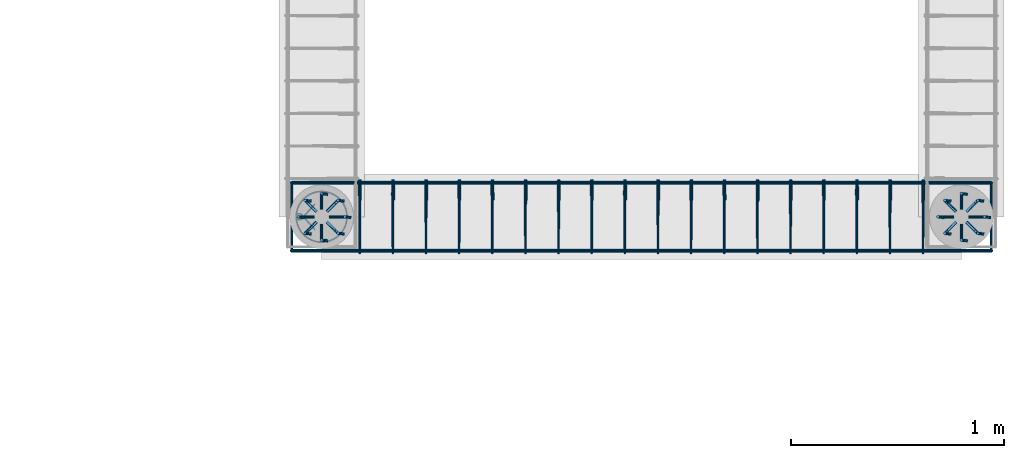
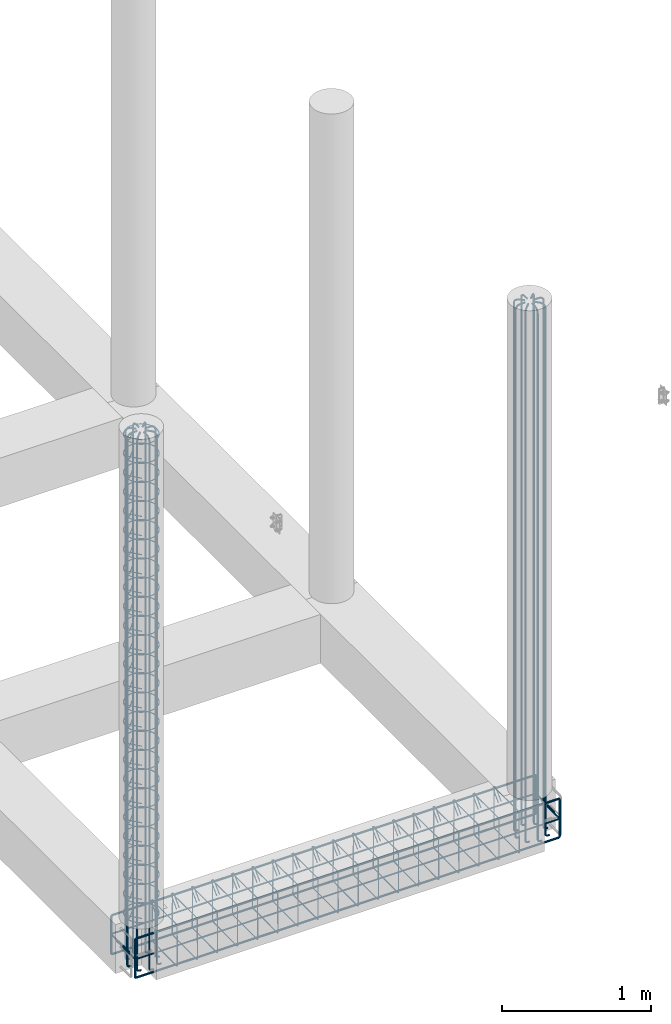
# One storey, part 4 of 20: 9 reinforcing bars.
"""IFC4 building model written with IfcOpenShell, lengths in metres."""

from ifc_helpers import new_model, entity, si_unit, origin_with_axes, place, context, project, spatial, source, transform, mapped, element, save


model = new_model("IFC4")

# Units and contexts
model_context = context("Model", 3, precision=1e-05, world=origin_with_axes())
ifc_project = project(units=[si_unit("LENGTHUNIT", "METRE"), si_unit("AREAUNIT", "SQUARE_METRE"), si_unit("VOLUMEUNIT", "CUBIC_METRE"), si_unit("MASSUNIT", "GRAM", prefix="KILO"), si_unit("TIMEUNIT", "SECOND"), si_unit("PLANEANGLEUNIT", "RADIAN"), si_unit("SOLIDANGLEUNIT", "STERADIAN"), si_unit("THERMODYNAMICTEMPERATUREUNIT", "DEGREE_CELSIUS")], contexts=[model_context])

# Site, building, storey
placement_1 = place(None, origin_with_axes())
site = spatial("IfcSite", under=ifc_project, at=placement_1, Name="Italia", CompositionType="ELEMENT")
building = spatial("IfcBuilding", under=site, at=placement_1, Name="Tettoia", CompositionType="ELEMENT")
storey = spatial("IfcBuildingStorey", under=building, at=placement_1, Name="Storey 0", CompositionType="ELEMENT", Elevation=0.0)

# Reinforcing bars
shared_shape_1 = source(origin_with_axes(), model_context, "Body", "AdvancedSweptSolid", [
    entity("IfcSweptDiskSolid", entity("IfcIndexedPolyCurve", entity("IfcCartesianPointList3D", [[8.21102, 1.99605, -0.375], [8.19714, 1.99787, -0.375], [8.19097, 1.99869, -0.373761], [8.18573, 1.99938, -0.370231], [8.18223, 1.99984, -0.364948], [8.181, 2.0, -0.358717], [8.181, 2.0, 0.5725]]), [entity("IfcLineIndex", [1, 2]), entity("IfcLineIndex", [2, 3]), entity("IfcLineIndex", [3, 4]), entity("IfcLineIndex", [4, 5]), entity("IfcLineIndex", [5, 6]), entity("IfcLineIndex", [6, 7])], False), 0.007),
])
placement_2 = place(placement_1, origin_with_axes())
reinforcing_bar_1_placement = place(placement_2, origin_with_axes())
element("IfcReinforcingBar", 1, at=reinforcing_bar_1_placement, inside=storey, BarLength=0.97063, CrossSectionArea=0.00015394, NominalDiameter=0.014, context=model_context, shape_type="MappedRepresentation", body=[
    mapped(shared_shape_1, transform((0.186057, -0.0770054, 0.0), x_axis=(1.0, 0.0, 0.0), y_axis=(0.0, 1.0, 0.0), z_axis=(0.0, 0.0, 1.0), scale=1.0)),
    mapped(shared_shape_1, transform((0.217983, 6.55651e-05, 0.0), x_axis=(1.0, 0.0, 0.0), y_axis=(0.0, 1.0, 0.0), z_axis=(0.0, 0.0, 1.0), scale=1.0)),
    mapped(shared_shape_1, transform((0.0319242, -0.0770749, 0.0), x_axis=(1.0, 0.0, 0.0), y_axis=(0.0, 1.0, 0.0), z_axis=(0.0, 0.0, 1.0), scale=1.0)),
    mapped(shared_shape_1, transform((0.109, -0.109007, 0.0), x_axis=(1.0, 0.0, 0.0), y_axis=(0.0, 1.0, 0.0), z_axis=(0.0, 0.0, 1.0), scale=1.0)),
    mapped(shared_shape_1, transform((0.0, 0.0, 0.0), x_axis=(1.0, 0.0, 0.0), y_axis=(0.0, 1.0, 0.0), z_axis=(0.0, 0.0, 1.0), scale=1.0)),
    mapped(shared_shape_1, transform((0.0319242, 0.0770745, 0.0), x_axis=(1.0, 0.0, 0.0), y_axis=(0.0, 1.0, 0.0), z_axis=(0.0, 0.0, 1.0), scale=1.0)),
    mapped(shared_shape_1, transform((0.18604, 0.077213, 0.0), x_axis=(1.0, -1.68383e-05, 0.0), y_axis=(1.6883e-05, 1.0, 0.0), z_axis=(0.0, 0.0, 1.0), scale=1.0)),
    mapped(shared_shape_1, transform((0.108983, 0.109066, 0.0), x_axis=(1.0, 0.0, 0.0), y_axis=(0.0, 1.0, 0.0), z_axis=(0.0, 0.0, 1.0), scale=1.0)),
])
shared_shape_2 = source(origin_with_axes(), model_context, "Body", "AdvancedSweptSolid", [
    entity("IfcSweptDiskSolid", entity("IfcIndexedPolyCurve", entity("IfcCartesianPointList3D", [[8.181, 2.0, 0.0], [8.181, 2.0, 3.94], [8.18366, 2.0, 3.95339], [8.19125, 2.0, 3.96475], [8.20261, 2.0, 3.97234], [8.216, 2.0, 3.975], [8.256, 2.0, 3.975]]), [entity("IfcLineIndex", [1, 2]), entity("IfcLineIndex", [2, 3]), entity("IfcLineIndex", [3, 4]), entity("IfcLineIndex", [4, 5]), entity("IfcLineIndex", [5, 6]), entity("IfcLineIndex", [6, 7])], False), 0.007),
])
reinforcing_bar_2_placement = place(placement_2, origin_with_axes())
element("IfcReinforcingBar", 2, at=reinforcing_bar_2_placement, inside=storey, BarLength=4.03463, CrossSectionArea=0.00015394, NominalDiameter=0.014, context=model_context, shape_type="MappedRepresentation", body=[
    mapped(shared_shape_2, transform((15.5661, -2.44771, 0.0), x_axis=(-0.707106, 0.707108, 0.0), y_axis=(-0.707108, -0.707106, 0.0), z_axis=(0.0, 0.0, 1.0), scale=1.0)),
    mapped(shared_shape_2, transform((16.58, 4.0, 0.0), x_axis=(-1.0, 0.0, 0.0), y_axis=(0.0, -1.0, 0.0), z_axis=(0.0, 0.0, 1.0), scale=1.0)),
    mapped(shared_shape_2, transform((3.84231, -5.27613, 0.0), x_axis=(0.707106, 0.707108, 0.0), y_axis=(-0.707108, 0.707106, 0.0), z_axis=(0.0, 0.0, 1.0), scale=1.0)),
    mapped(shared_shape_2, transform((10.29, -6.29, 0.0), x_axis=(0.0, 1.0, 0.0), y_axis=(-1.0, 0.0, 0.0), z_axis=(0.0, 0.0, 1.0), scale=1.0)),
    mapped(shared_shape_2, transform((1.01384, 6.44765, 0.0), x_axis=(0.707112, -0.707102, 0.0), y_axis=(0.707102, 0.707112, 0.0), z_axis=(0.0, 0.0, 1.0), scale=1.0)),
    mapped(shared_shape_2, transform((0.0, 0.0, 0.0), x_axis=(1.0, 0.0, 0.0), y_axis=(0.0, 1.0, 0.0), z_axis=(0.0, 0.0, 1.0), scale=1.0)),
    mapped(shared_shape_2, transform((12.7377, 9.27614, 0.0), x_axis=(-0.707105, -0.707108, 0.0), y_axis=(0.707108, -0.707105, 0.0), z_axis=(0.0, 0.0, 1.0), scale=1.0)),
    mapped(shared_shape_2, transform((6.29, 10.29, 0.0), x_axis=(0.0, -1.0, 0.0), y_axis=(1.0, 0.0, 0.0), z_axis=(0.0, 0.0, 1.0), scale=1.0)),
])
shared_shape_3 = source(origin_with_axes(), model_context, "Body", "AdvancedSweptSolid", [
    entity("IfcSweptDiskSolid", entity("IfcIndexedPolyCurve", entity("IfcCartesianPointList3D", [[8.25909, 1.93856, 0.029], [8.19569, 2.01046, 0.029], [8.18882, 2.01383, 0.029], [8.18197, 2.01426, 0.029], [8.17811, 2.01374, 0.029], [8.17473, 2.01178, 0.029], [8.17237, 2.00867, 0.029], [8.17137, 2.0049, 0.029], [8.1711, 2.00071, 0.029], [8.17111, 1.99929, 0.029], [8.17246, 1.98218, 0.029], [8.17271, 1.98063, 0.029], [8.1767, 1.96401, 0.029], [8.17718, 1.96252, 0.029], [8.18372, 1.94673, 0.029], [8.18443, 1.94533, 0.029], [8.19336, 1.93076, 0.029], [8.19429, 1.92949, 0.029], [8.20538, 1.91649, 0.029], [8.20649, 1.91538, 0.029], [8.21949, 1.90429, 0.029], [8.22076, 1.90336, 0.029], [8.23533, 1.89443, 0.029], [8.23673, 1.89372, 0.029], [8.25252, 1.88718, 0.029], [8.25401, 1.8867, 0.029], [8.27063, 1.88271, 0.029], [8.27218, 1.88246, 0.029], [8.28922, 1.88112, 0.029], [8.29078, 1.88112, 0.029], [8.30782, 1.88246, 0.029], [8.30937, 1.88271, 0.029], [8.32599, 1.8867, 0.029], [8.32748, 1.88718, 0.029], [8.34327, 1.89372, 0.029], [8.34467, 1.89443, 0.029], [8.35924, 1.90336, 0.029], [8.36051, 1.90429, 0.029], [8.37351, 1.91538, 0.029], [8.37462, 1.91649, 0.029], [8.38571, 1.92949, 0.029], [8.38664, 1.93076, 0.029], [8.39557, 1.94533, 0.029], [8.39628, 1.94673, 0.029], [8.40282, 1.96252, 0.029], [8.4033, 1.96401, 0.029], [8.40729, 1.98063, 0.029], [8.40754, 1.98218, 0.029], [8.40888, 1.99922, 0.029], [8.40888, 2.00078, 0.029], [8.40754, 2.01782, 0.029], [8.40729, 2.01937, 0.029], [8.4033, 2.03599, 0.029], [8.40282, 2.03748, 0.029], [8.39628, 2.05327, 0.029], [8.39557, 2.05467, 0.029], [8.38664, 2.06924, 0.029], [8.38571, 2.07051, 0.029], [8.37462, 2.08351, 0.029], [8.37351, 2.08462, 0.029], [8.36051, 2.09571, 0.029], [8.35924, 2.09664, 0.029], [8.34467, 2.10557, 0.029], [8.34327, 2.10628, 0.029], [8.32748, 2.11282, 0.029], [8.32599, 2.1133, 0.029], [8.30937, 2.11729, 0.029], [8.30782, 2.11754, 0.029], [8.29078, 2.11888, 0.029], [8.28922, 2.11888, 0.029], [8.27218, 2.11754, 0.029], [8.27063, 2.11729, 0.029], [8.25401, 2.1133, 0.029], [8.25252, 2.11282, 0.029], [8.23673, 2.10628, 0.029], [8.23533, 2.10557, 0.029], [8.22076, 2.09664, 0.029], [8.21949, 2.09571, 0.029], [8.20649, 2.08462, 0.029], [8.20538, 2.08351, 0.029], [8.19429, 2.07051, 0.029], [8.19336, 2.06924, 0.029], [8.18443, 2.05467, 0.029], [8.18372, 2.05327, 0.029], [8.17718, 2.03748, 0.029], [8.1767, 2.03599, 0.029], [8.17271, 2.01937, 0.029], [8.17246, 2.01782, 0.029], [8.17111, 2.00071, 0.029], [8.1711, 1.99929, 0.029], [8.17137, 1.9951, 0.029], [8.17237, 1.99133, 0.029], [8.17473, 1.98822, 0.029], [8.17811, 1.98626, 0.029], [8.18197, 1.98574, 0.029], [8.18882, 1.98617, 0.029], [8.19569, 1.98954, 0.029], [8.25909, 2.06144, 0.029]]), [entity("IfcLineIndex", [1, 2]), entity("IfcLineIndex", [2, 3]), entity("IfcLineIndex", [3, 4]), entity("IfcLineIndex", [4, 5]), entity("IfcLineIndex", [5, 6]), entity("IfcLineIndex", [6, 7]), entity("IfcLineIndex", [7, 8]), entity("IfcLineIndex", [8, 9]), entity("IfcLineIndex", [9, 10]), entity("IfcLineIndex", [10, 11]), entity("IfcLineIndex", [11, 12]), entity("IfcLineIndex", [12, 13]), entity("IfcLineIndex", [13, 14]), entity("IfcLineIndex", [14, 15]), entity("IfcLineIndex", [15, 16]), entity("IfcLineIndex", [16, 17]), entity("IfcLineIndex", [17, 18]), entity("IfcLineIndex", [18, 19]), entity("IfcLineIndex", [19, 20]), entity("IfcLineIndex", [20, 21]), entity("IfcLineIndex", [21, 22]), entity("IfcLineIndex", [22, 23]), entity("IfcLineIndex", [23, 24]), entity("IfcLineIndex", [24, 25]), entity("IfcLineIndex", [25, 26]), entity("IfcLineIndex", [26, 27]), entity("IfcLineIndex", [27, 28]), entity("IfcLineIndex", [28, 29]), entity("IfcLineIndex", [29, 30]), entity("IfcLineIndex", [30, 31]), entity("IfcLineIndex", [31, 32]), entity("IfcLineIndex", [32, 33]), entity("IfcLineIndex", [33, 34]), entity("IfcLineIndex", [34, 35]), entity("IfcLineIndex", [35, 36]), entity("IfcLineIndex", [36, 37]), entity("IfcLineIndex", [37, 38]), entity("IfcLineIndex", [38, 39]), entity("IfcLineIndex", [39, 40]), entity("IfcLineIndex", [40, 41]), entity("IfcLineIndex", [41, 42]), entity("IfcLineIndex", [42, 43]), entity("IfcLineIndex", [43, 44]), entity("IfcLineIndex", [44, 45]), entity("IfcLineIndex", [45, 46]), entity("IfcLineIndex", [46, 47]), entity("IfcLineIndex", [47, 48]), entity("IfcLineIndex", [48, 49]), entity("IfcLineIndex", [49, 50]), entity("IfcLineIndex", [50, 51]), entity("IfcLineIndex", [51, 52]), entity("IfcLineIndex", [52, 53]), entity("IfcLineIndex", [53, 54]), entity("IfcLineIndex", [54, 55]), entity("IfcLineIndex", [55, 56]), entity("IfcLineIndex", [56, 57]), entity("IfcLineIndex", [57, 58]), entity("IfcLineIndex", [58, 59]), entity("IfcLineIndex", [59, 60]), entity("IfcLineIndex", [60, 61]), entity("IfcLineIndex", [61, 62]), entity("IfcLineIndex", [62, 63]), entity("IfcLineIndex", [63, 64]), entity("IfcLineIndex", [64, 65]), entity("IfcLineIndex", [65, 66]), entity("IfcLineIndex", [66, 67]), entity("IfcLineIndex", [67, 68]), entity("IfcLineIndex", [68, 69]), entity("IfcLineIndex", [69, 70]), entity("IfcLineIndex", [70, 71]), entity("IfcLineIndex", [71, 72]), entity("IfcLineIndex", [72, 73]), entity("IfcLineIndex", [73, 74]), entity("IfcLineIndex", [74, 75]), entity("IfcLineIndex", [75, 76]), entity("IfcLineIndex", [76, 77]), entity("IfcLineIndex", [77, 78]), entity("IfcLineIndex", [78, 79]), entity("IfcLineIndex", [79, 80]), entity("IfcLineIndex", [80, 81]), entity("IfcLineIndex", [81, 82]), entity("IfcLineIndex", [82, 83]), entity("IfcLineIndex", [83, 84]), entity("IfcLineIndex", [84, 85]), entity("IfcLineIndex", [85, 86]), entity("IfcLineIndex", [86, 87]), entity("IfcLineIndex", [87, 88]), entity("IfcLineIndex", [88, 89]), entity("IfcLineIndex", [89, 90]), entity("IfcLineIndex", [90, 91]), entity("IfcLineIndex", [91, 92]), entity("IfcLineIndex", [92, 93]), entity("IfcLineIndex", [93, 94]), entity("IfcLineIndex", [94, 95]), entity("IfcLineIndex", [95, 96]), entity("IfcLineIndex", [96, 97]), entity("IfcLineIndex", [97, 98])], False), 0.004),
])
reinforcing_bar_3_placement = place(placement_2, origin_with_axes())
element("IfcReinforcingBar", 3, at=reinforcing_bar_3_placement, inside=storey, BarLength=1.00815, CrossSectionArea=5.0265e-05, NominalDiameter=0.008, context=model_context, shape_type="MappedRepresentation", body=[
    mapped(shared_shape_3, transform((0.0, 0.0, 1.8768), x_axis=(1.0, 0.0, 0.0), y_axis=(0.0, 1.0, 0.0), z_axis=(0.0, 0.0, 1.0), scale=1.0)),
    mapped(shared_shape_3, transform((0.0, 0.0, 1.7204), x_axis=(1.0, 0.0, 0.0), y_axis=(0.0, 1.0, 0.0), z_axis=(0.0, 0.0, 1.0), scale=1.0)),
    mapped(shared_shape_3, transform((0.0, 0.0, 1.0948), x_axis=(1.0, 0.0, 0.0), y_axis=(0.0, 1.0, 0.0), z_axis=(0.0, 0.0, 1.0), scale=1.0)),
    mapped(shared_shape_3, transform((0.0, 0.0, 1.4076), x_axis=(1.0, 0.0, 0.0), y_axis=(0.0, 1.0, 0.0), z_axis=(0.0, 0.0, 1.0), scale=1.0)),
    mapped(shared_shape_3, transform((0.0, 0.0, 1.2512), x_axis=(1.0, 0.0, 0.0), y_axis=(0.0, 1.0, 0.0), z_axis=(0.0, 0.0, 1.0), scale=1.0)),
    mapped(shared_shape_3, transform((0.0, 0.0, 1.564), x_axis=(1.0, 0.0, 0.0), y_axis=(0.0, 1.0, 0.0), z_axis=(0.0, 0.0, 1.0), scale=1.0)),
    mapped(shared_shape_3, transform((0.0, 0.0, 0.9384), x_axis=(1.0, 0.0, 0.0), y_axis=(0.0, 1.0, 0.0), z_axis=(0.0, 0.0, 1.0), scale=1.0)),
    mapped(shared_shape_3, transform((0.0, 0.0, 0.782), x_axis=(1.0, 0.0, 0.0), y_axis=(0.0, 1.0, 0.0), z_axis=(0.0, 0.0, 1.0), scale=1.0)),
    mapped(shared_shape_3, transform((0.0, 0.0, 0.1564), x_axis=(1.0, 0.0, 0.0), y_axis=(0.0, 1.0, 0.0), z_axis=(0.0, 0.0, 1.0), scale=1.0)),
    mapped(shared_shape_3, transform((0.0, 0.0, 0.4692), x_axis=(1.0, 0.0, 0.0), y_axis=(0.0, 1.0, 0.0), z_axis=(0.0, 0.0, 1.0), scale=1.0)),
    mapped(shared_shape_3, transform((0.0, 0.0, 0.3128), x_axis=(1.0, 0.0, 0.0), y_axis=(0.0, 1.0, 0.0), z_axis=(0.0, 0.0, 1.0), scale=1.0)),
    mapped(shared_shape_3, transform((0.0, 0.0, 0.6256), x_axis=(1.0, 0.0, 0.0), y_axis=(0.0, 1.0, 0.0), z_axis=(0.0, 0.0, 1.0), scale=1.0)),
    mapped(shared_shape_3, transform((0.0, 0.0, 0.0), x_axis=(1.0, 0.0, 0.0), y_axis=(0.0, 1.0, 0.0), z_axis=(0.0, 0.0, 1.0), scale=1.0)),
    mapped(shared_shape_3, transform((0.0, 0.0, 3.91), x_axis=(1.0, 0.0, 0.0), y_axis=(0.0, 1.0, 0.0), z_axis=(0.0, 0.0, 1.0), scale=1.0)),
    mapped(shared_shape_3, transform((0.0, 0.0, 3.2844), x_axis=(1.0, 0.0, 0.0), y_axis=(0.0, 1.0, 0.0), z_axis=(0.0, 0.0, 1.0), scale=1.0)),
    mapped(shared_shape_3, transform((0.0, 0.0, 3.5972), x_axis=(1.0, 0.0, 0.0), y_axis=(0.0, 1.0, 0.0), z_axis=(0.0, 0.0, 1.0), scale=1.0)),
    mapped(shared_shape_3, transform((0.0, 0.0, 3.4408), x_axis=(1.0, 0.0, 0.0), y_axis=(0.0, 1.0, 0.0), z_axis=(0.0, 0.0, 1.0), scale=1.0)),
    mapped(shared_shape_3, transform((0.0, 0.0, 3.7536), x_axis=(1.0, 0.0, 0.0), y_axis=(0.0, 1.0, 0.0), z_axis=(0.0, 0.0, 1.0), scale=1.0)),
    mapped(shared_shape_3, transform((0.0, 0.0, 3.128), x_axis=(1.0, 0.0, 0.0), y_axis=(0.0, 1.0, 0.0), z_axis=(0.0, 0.0, 1.0), scale=1.0)),
    mapped(shared_shape_3, transform((0.0, 0.0, 2.9716), x_axis=(1.0, 0.0, 0.0), y_axis=(0.0, 1.0, 0.0), z_axis=(0.0, 0.0, 1.0), scale=1.0)),
    mapped(shared_shape_3, transform((0.0, 0.0, 2.346), x_axis=(1.0, 0.0, 0.0), y_axis=(0.0, 1.0, 0.0), z_axis=(0.0, 0.0, 1.0), scale=1.0)),
    mapped(shared_shape_3, transform((0.0, 0.0, 2.6588), x_axis=(1.0, 0.0, 0.0), y_axis=(0.0, 1.0, 0.0), z_axis=(0.0, 0.0, 1.0), scale=1.0)),
    mapped(shared_shape_3, transform((0.0, 0.0, 2.5024), x_axis=(1.0, 0.0, 0.0), y_axis=(0.0, 1.0, 0.0), z_axis=(0.0, 0.0, 1.0), scale=1.0)),
    mapped(shared_shape_3, transform((0.0, 0.0, 2.8152), x_axis=(1.0, 0.0, 0.0), y_axis=(0.0, 1.0, 0.0), z_axis=(0.0, 0.0, 1.0), scale=1.0)),
    mapped(shared_shape_3, transform((0.0, 0.0, 2.1896), x_axis=(1.0, 0.0, 0.0), y_axis=(0.0, 1.0, 0.0), z_axis=(0.0, 0.0, 1.0), scale=1.0)),
    mapped(shared_shape_3, transform((0.0, 0.0, 2.0332), x_axis=(1.0, 0.0, 0.0), y_axis=(0.0, 1.0, 0.0), z_axis=(0.0, 0.0, 1.0), scale=1.0)),
])
shared_shape_4 = source(origin_with_axes(), model_context, "Body", "AdvancedSweptSolid", [
    entity("IfcSweptDiskSolid", entity("IfcIndexedPolyCurve", entity("IfcCartesianPointList3D", [[11.211, 1.99605, -0.375], [11.1971, 1.99787, -0.375], [11.191, 1.99869, -0.373761], [11.1857, 1.99938, -0.370231], [11.1822, 1.99984, -0.364949], [11.181, 2.0, -0.358718], [11.181, 2.0, 0.5725]]), [entity("IfcLineIndex", [1, 2]), entity("IfcLineIndex", [2, 3]), entity("IfcLineIndex", [3, 4]), entity("IfcLineIndex", [4, 5]), entity("IfcLineIndex", [5, 6]), entity("IfcLineIndex", [6, 7])], False), 0.007),
])
reinforcing_bar_4_placement = place(placement_2, origin_with_axes())
element("IfcReinforcingBar", 4, at=reinforcing_bar_4_placement, inside=storey, BarLength=0.97063, CrossSectionArea=0.00015394, NominalDiameter=0.014, context=model_context, shape_type="MappedRepresentation", body=[
    mapped(shared_shape_4, transform((0.186073, -0.0770695, 0.0), x_axis=(1.0, 0.0, 0.0), y_axis=(0.0, 1.0, 0.0), z_axis=(0.0, 0.0, 1.0), scale=1.0)),
    mapped(shared_shape_4, transform((0.0319414, -0.0771643, 0.0), x_axis=(1.0, 0.0, 0.0), y_axis=(0.0, 1.0, 0.0), z_axis=(0.0, 0.0, 1.0), scale=1.0)),
    mapped(shared_shape_4, transform((0.0, 0.0, 0.0), x_axis=(1.0, 0.0, 0.0), y_axis=(0.0, 1.0, 0.0), z_axis=(0.0, 0.0, 1.0), scale=1.0)),
    mapped(shared_shape_4, transform((0.186074, 0.0770746, 0.0), x_axis=(1.0, 0.0, 0.0), y_axis=(0.0, 1.0, 0.0), z_axis=(0.0, 0.0, 1.0), scale=1.0)),
    mapped(shared_shape_4, transform((0.217999, 0.0, 0.0), x_axis=(1.0, 0.0, 0.0), y_axis=(0.0, 1.0, 0.0), z_axis=(0.0, 0.0, 1.0), scale=1.0)),
    mapped(shared_shape_4, transform((0.109015, 0.10891, 0.0), x_axis=(1.0, 0.0, 0.0), y_axis=(0.0, 1.0, 0.0), z_axis=(0.0, 0.0, 1.0), scale=1.0)),
    mapped(shared_shape_4, transform((0.0319414, 0.0769851, 0.0), x_axis=(1.0, 0.0, 0.0), y_axis=(0.0, 1.0, 0.0), z_axis=(0.0, 0.0, 1.0), scale=1.0)),
    mapped(shared_shape_4, transform((0.109015, -0.10909, 0.0), x_axis=(1.0, 0.0, 0.0), y_axis=(0.0, 1.0, 0.0), z_axis=(0.0, 0.0, 1.0), scale=1.0)),
])
shared_shape_5 = source(origin_with_axes(), model_context, "Body", "AdvancedSweptSolid", [
    entity("IfcSweptDiskSolid", entity("IfcIndexedPolyCurve", entity("IfcCartesianPointList3D", [[11.181, 2.0, 0.0], [11.181, 2.0, 3.94], [11.1837, 2.0, 3.95339], [11.1913, 2.0, 3.96475], [11.2026, 2.0, 3.97234], [11.216, 2.0, 3.975], [11.256, 2.0, 3.975]]), [entity("IfcLineIndex", [1, 2]), entity("IfcLineIndex", [2, 3]), entity("IfcLineIndex", [3, 4]), entity("IfcLineIndex", [4, 5]), entity("IfcLineIndex", [5, 6]), entity("IfcLineIndex", [6, 7])], False), 0.007),
])
reinforcing_bar_5_placement = place(placement_2, origin_with_axes())
element("IfcReinforcingBar", 5, at=reinforcing_bar_5_placement, inside=storey, BarLength=4.03463, CrossSectionArea=0.00015394, NominalDiameter=0.014, context=model_context, shape_type="MappedRepresentation", body=[
    mapped(shared_shape_5, transform((20.6874, -4.56903, 0.0), x_axis=(-0.707106, 0.707108, 0.0), y_axis=(-0.707108, -0.707106, 0.0), z_axis=(0.0, 0.0, 1.0), scale=1.0)),
    mapped(shared_shape_5, transform((22.58, 4.0, 0.0), x_axis=(-1.0, 0.0, 0.0), y_axis=(0.0, -1.0, 0.0), z_axis=(0.0, 0.0, 1.0), scale=1.0)),
    mapped(shared_shape_5, transform((4.72099, -7.39746, 0.0), x_axis=(0.707106, 0.707108, 0.0), y_axis=(-0.707108, 0.707106, 0.0), z_axis=(0.0, 0.0, 1.0), scale=1.0)),
    mapped(shared_shape_5, transform((13.29, -9.29, 0.0), x_axis=(0.0, 1.0, 0.0), y_axis=(-1.0, 0.0, 0.0), z_axis=(0.0, 0.0, 1.0), scale=1.0)),
    mapped(shared_shape_5, transform((1.89251, 8.56896, 0.0), x_axis=(0.707112, -0.707102, 0.0), y_axis=(0.707102, 0.707112, 0.0), z_axis=(0.0, 0.0, 1.0), scale=1.0)),
    mapped(shared_shape_5, transform((0.0, 0.0, 0.0), x_axis=(1.0, 0.0, 0.0), y_axis=(0.0, 1.0, 0.0), z_axis=(0.0, 0.0, 1.0), scale=1.0)),
    mapped(shared_shape_5, transform((17.859, 11.3975, 0.0), x_axis=(-0.707105, -0.707108, 0.0), y_axis=(0.707108, -0.707105, 0.0), z_axis=(0.0, 0.0, 1.0), scale=1.0)),
    mapped(shared_shape_5, transform((9.29, 13.29, 0.0), x_axis=(0.0, -1.0, 0.0), y_axis=(1.0, 0.0, 0.0), z_axis=(0.0, 0.0, 1.0), scale=1.0)),
])
shared_shape_6 = source(origin_with_axes(), model_context, "Body", "AdvancedSweptSolid", [
    entity("IfcSweptDiskSolid", entity("IfcIndexedPolyCurve", entity("IfcCartesianPointList3D", [[8.465, 2.10029, -0.120711], [8.46556, 2.16807, -0.0529289], [8.4656, 2.171, -0.0458579], [8.46564, 2.171, -0.039], [8.46566, 2.17024, -0.0351732], [8.46568, 2.16807, -0.0319289], [8.46571, 2.16483, -0.0297612], [8.46573, 2.161, -0.029], [8.4676, 1.839, -0.029], [8.46762, 1.83517, -0.0297612], [8.46764, 1.83193, -0.0319289], [8.46766, 1.82976, -0.0351732], [8.46769, 1.829, -0.039], [8.46955, 1.829, -0.361], [8.46958, 1.82976, -0.364827], [8.4696, 1.83193, -0.368071], [8.46962, 1.83517, -0.370239], [8.46965, 1.839, -0.371], [8.47151, 2.161, -0.371], [8.47153, 2.16483, -0.370239], [8.47156, 2.16807, -0.368071], [8.47158, 2.17024, -0.364827], [8.4716, 2.171, -0.361], [8.47347, 2.171, -0.039], [8.47349, 2.17024, -0.0351732], [8.47351, 2.16807, -0.0319289], [8.47354, 2.16483, -0.0297612], [8.47356, 2.161, -0.029], [8.4736, 2.15414, -0.029], [8.47364, 2.14707, -0.0319289], [8.4742, 2.07929, -0.0997114]]), [entity("IfcLineIndex", [1, 2]), entity("IfcLineIndex", [2, 3]), entity("IfcLineIndex", [3, 4]), entity("IfcLineIndex", [4, 5]), entity("IfcLineIndex", [5, 6]), entity("IfcLineIndex", [6, 7]), entity("IfcLineIndex", [7, 8]), entity("IfcLineIndex", [8, 9]), entity("IfcLineIndex", [9, 10]), entity("IfcLineIndex", [10, 11]), entity("IfcLineIndex", [11, 12]), entity("IfcLineIndex", [12, 13]), entity("IfcLineIndex", [13, 14]), entity("IfcLineIndex", [14, 15]), entity("IfcLineIndex", [15, 16]), entity("IfcLineIndex", [16, 17]), entity("IfcLineIndex", [17, 18]), entity("IfcLineIndex", [18, 19]), entity("IfcLineIndex", [19, 20]), entity("IfcLineIndex", [20, 21]), entity("IfcLineIndex", [21, 22]), entity("IfcLineIndex", [22, 23]), entity("IfcLineIndex", [23, 24]), entity("IfcLineIndex", [24, 25]), entity("IfcLineIndex", [25, 26]), entity("IfcLineIndex", [26, 27]), entity("IfcLineIndex", [27, 28]), entity("IfcLineIndex", [28, 29]), entity("IfcLineIndex", [29, 30]), entity("IfcLineIndex", [30, 31])], False), 0.004),
])
reinforcing_bar_6_placement = place(placement_2, origin_with_axes())
element("IfcReinforcingBar", 6, at=reinforcing_bar_6_placement, inside=storey, BarLength=1.5868, CrossSectionArea=5.0265e-05, NominalDiameter=0.008, context=model_context, shape_type="MappedRepresentation", body=[
    mapped(shared_shape_6, transform((1.24329, 0.0, 0.0), x_axis=(1.0, 0.0, 0.0), y_axis=(0.0, 1.0, 0.0), z_axis=(0.0, 0.0, 1.0), scale=1.0)),
    mapped(shared_shape_6, transform((1.08788, 0.0, 0.0), x_axis=(1.0, 0.0, 0.0), y_axis=(0.0, 1.0, 0.0), z_axis=(0.0, 0.0, 1.0), scale=1.0)),
    mapped(shared_shape_6, transform((0.932469, 0.0, 0.0), x_axis=(1.0, 0.0, 0.0), y_axis=(0.0, 1.0, 0.0), z_axis=(0.0, 0.0, 1.0), scale=1.0)),
    mapped(shared_shape_6, transform((0.777058, 0.0, 0.0), x_axis=(1.0, 0.0, 0.0), y_axis=(0.0, 1.0, 0.0), z_axis=(0.0, 0.0, 1.0), scale=1.0)),
    mapped(shared_shape_6, transform((0.621646, 0.0, 0.0), x_axis=(1.0, 0.0, 0.0), y_axis=(0.0, 1.0, 0.0), z_axis=(0.0, 0.0, 1.0), scale=1.0)),
    mapped(shared_shape_6, transform((0.466234, 0.0, 0.0), x_axis=(1.0, 0.0, 0.0), y_axis=(0.0, 1.0, 0.0), z_axis=(0.0, 0.0, 1.0), scale=1.0)),
    mapped(shared_shape_6, transform((0.310822, 0.0, 0.0), x_axis=(1.0, 0.0, 0.0), y_axis=(0.0, 1.0, 0.0), z_axis=(0.0, 0.0, 1.0), scale=1.0)),
    mapped(shared_shape_6, transform((0.155411, 0.0, 0.0), x_axis=(1.0, 0.0, 0.0), y_axis=(0.0, 1.0, 0.0), z_axis=(0.0, 0.0, 1.0), scale=1.0)),
    mapped(shared_shape_6, transform((0.0, 0.0, 0.0), x_axis=(1.0, 0.0, 0.0), y_axis=(0.0, 1.0, 0.0), z_axis=(0.0, 0.0, 1.0), scale=1.0)),
    mapped(shared_shape_6, transform((2.642, 0.0, 0.0), x_axis=(1.0, 0.0, 0.0), y_axis=(0.0, 1.0, 0.0), z_axis=(0.0, 0.0, 1.0), scale=1.0)),
    mapped(shared_shape_6, transform((2.48659, 0.0, 0.0), x_axis=(1.0, 0.0, 0.0), y_axis=(0.0, 1.0, 0.0), z_axis=(0.0, 0.0, 1.0), scale=1.0)),
    mapped(shared_shape_6, transform((2.33118, 0.0, 0.0), x_axis=(1.0, 0.0, 0.0), y_axis=(0.0, 1.0, 0.0), z_axis=(0.0, 0.0, 1.0), scale=1.0)),
    mapped(shared_shape_6, transform((2.17576, 0.0, 0.0), x_axis=(1.0, 0.0, 0.0), y_axis=(0.0, 1.0, 0.0), z_axis=(0.0, 0.0, 1.0), scale=1.0)),
    mapped(shared_shape_6, transform((2.02035, 0.0, 0.0), x_axis=(1.0, 0.0, 0.0), y_axis=(0.0, 1.0, 0.0), z_axis=(0.0, 0.0, 1.0), scale=1.0)),
    mapped(shared_shape_6, transform((1.86494, 0.0, 0.0), x_axis=(1.0, 0.0, 0.0), y_axis=(0.0, 1.0, 0.0), z_axis=(0.0, 0.0, 1.0), scale=1.0)),
    mapped(shared_shape_6, transform((1.70953, 0.0, 0.0), x_axis=(1.0, 0.0, 0.0), y_axis=(0.0, 1.0, 0.0), z_axis=(0.0, 0.0, 1.0), scale=1.0)),
    mapped(shared_shape_6, transform((1.55412, 0.0, 0.0), x_axis=(1.0, 0.0, 0.0), y_axis=(0.0, 1.0, 0.0), z_axis=(0.0, 0.0, 1.0), scale=1.0)),
    mapped(shared_shape_6, transform((1.39871, 0.0, 0.0), x_axis=(1.0, 0.0, 0.0), y_axis=(0.0, 1.0, 0.0), z_axis=(0.0, 0.0, 1.0), scale=1.0)),
])
shared_shape_7 = source(origin_with_axes(), model_context, "Body", "AdvancedSweptSolid", [
    entity("IfcSweptDiskSolid", entity("IfcIndexedPolyCurve", entity("IfcCartesianPointList3D", [[8.15, 1.911, -0.194], [8.15, 2.151, -0.194], [8.15076, 2.15483, -0.194], [8.15293, 2.15807, -0.194], [8.15617, 2.16024, -0.194], [8.16, 2.161, -0.194], [11.42, 2.161, -0.194], [11.4238, 2.16024, -0.194], [11.4271, 2.15807, -0.194], [11.4292, 2.15483, -0.194], [11.43, 2.151, -0.194], [11.43, 1.911, -0.194]]), [entity("IfcLineIndex", [1, 2]), entity("IfcLineIndex", [2, 3]), entity("IfcLineIndex", [3, 4]), entity("IfcLineIndex", [4, 5]), entity("IfcLineIndex", [5, 6]), entity("IfcLineIndex", [6, 7]), entity("IfcLineIndex", [7, 8]), entity("IfcLineIndex", [8, 9]), entity("IfcLineIndex", [9, 10]), entity("IfcLineIndex", [10, 11]), entity("IfcLineIndex", [11, 12])], False), 0.006),
])
reinforcing_bar_7_placement = place(placement_2, origin_with_axes())
element("IfcReinforcingBar", 7, at=reinforcing_bar_7_placement, inside=storey, BarLength=3.77121, CrossSectionArea=0.0001131, NominalDiameter=0.012, context=model_context, shape_type="MappedRepresentation", body=[
    mapped(shared_shape_7, transform((0.0, 4.0, -0.4), x_axis=(1.0, 0.0, 0.0), y_axis=(0.0, -1.0, 0.0), z_axis=(0.0, 0.0, -1.0), scale=1.0)),
    mapped(shared_shape_7, transform((0.0, 0.0, 0.0), x_axis=(1.0, 0.0, 0.0), y_axis=(0.0, 1.0, 0.0), z_axis=(0.0, 0.0, 1.0), scale=1.0)),
])
shared_shape_8 = source(origin_with_axes(), model_context, "Body", "AdvancedSweptSolid", [
    entity("IfcSweptDiskSolid", entity("IfcIndexedPolyCurve", entity("IfcCartesianPointList3D", [[9.20727, 1.841, -0.359], [9.79, 1.841, -0.359], [11.29, 1.841, -0.359], [11.42, 1.841, -0.359], [11.4238, 1.841, -0.358239], [11.4271, 1.841, -0.356071], [11.4292, 1.841, -0.352827], [11.43, 1.841, -0.349], [11.43, 1.841, -0.109]]), [entity("IfcLineIndex", [1, 2]), entity("IfcLineIndex", [2, 3]), entity("IfcLineIndex", [3, 4]), entity("IfcLineIndex", [4, 5]), entity("IfcLineIndex", [5, 6]), entity("IfcLineIndex", [6, 7]), entity("IfcLineIndex", [7, 8]), entity("IfcLineIndex", [8, 9])], False), 0.008),
])
reinforcing_bar_8_placement = place(placement_2, origin_with_axes())
element("IfcReinforcingBar", 8, at=reinforcing_bar_8_placement, inside=storey, BarLength=2.46833, CrossSectionArea=0.00020106, NominalDiameter=0.016, context=model_context, shape_type="MappedRepresentation", body=[
    mapped(shared_shape_8, transform((0.0, 0.318, 0.0), x_axis=(1.0, 0.0, 0.0), y_axis=(0.0, 1.0, 0.0), z_axis=(0.0, 0.0, 1.0), scale=1.0)),
    mapped(shared_shape_8, transform((0.0, 0.0, 0.0), x_axis=(1.0, 0.0, 0.0), y_axis=(0.0, 1.0, 0.0), z_axis=(0.0, 0.0, 1.0), scale=1.0)),
    mapped(shared_shape_8, transform((0.0, 4.0, -0.4), x_axis=(1.0, 0.0, 0.0), y_axis=(0.0, -1.0, 0.0), z_axis=(0.0, 0.0, -1.0), scale=1.0)),
    mapped(shared_shape_8, transform((0.0, 3.682, -0.4), x_axis=(1.0, 0.0, 0.0), y_axis=(0.0, -1.0, 0.0), z_axis=(0.0, 0.0, -1.0), scale=1.0)),
])
shared_shape_9 = source(origin_with_axes(), model_context, "Body", "AdvancedSweptSolid", [
    entity("IfcSweptDiskSolid", entity("IfcIndexedPolyCurve", entity("IfcCartesianPointList3D", [[8.15, 1.841, -0.109], [8.15, 1.841, -0.349], [8.15076, 1.841, -0.352827], [8.15293, 1.841, -0.356071], [8.15617, 1.841, -0.358239], [8.16, 1.841, -0.359], [8.29, 1.841, -0.359], [9.79, 1.841, -0.359], [10.3727, 1.841, -0.359]]), [entity("IfcLineIndex", [1, 2]), entity("IfcLineIndex", [2, 3]), entity("IfcLineIndex", [3, 4]), entity("IfcLineIndex", [4, 5]), entity("IfcLineIndex", [5, 6]), entity("IfcLineIndex", [6, 7]), entity("IfcLineIndex", [7, 8]), entity("IfcLineIndex", [8, 9])], False), 0.008),
])
reinforcing_bar_9_placement = place(placement_2, origin_with_axes())
element("IfcReinforcingBar", 9, at=reinforcing_bar_9_placement, inside=storey, BarLength=2.46833, CrossSectionArea=0.00020106, NominalDiameter=0.016, context=model_context, shape_type="MappedRepresentation", body=[
    mapped(shared_shape_9, transform((0.0, 0.318, 0.0), x_axis=(1.0, 0.0, 0.0), y_axis=(0.0, 1.0, 0.0), z_axis=(0.0, 0.0, 1.0), scale=1.0)),
    mapped(shared_shape_9, transform((0.0, 0.0, 0.0), x_axis=(1.0, 0.0, 0.0), y_axis=(0.0, 1.0, 0.0), z_axis=(0.0, 0.0, 1.0), scale=1.0)),
    mapped(shared_shape_9, transform((0.0, 4.0, -0.4), x_axis=(1.0, 0.0, 0.0), y_axis=(0.0, -1.0, 0.0), z_axis=(0.0, 0.0, -1.0), scale=1.0)),
    mapped(shared_shape_9, transform((0.0, 3.682, -0.4), x_axis=(1.0, 0.0, 0.0), y_axis=(0.0, -1.0, 0.0), z_axis=(0.0, 0.0, -1.0), scale=1.0)),
])

save(model, "model.ifc")
